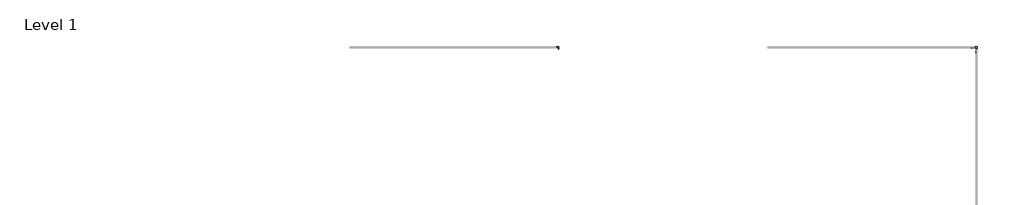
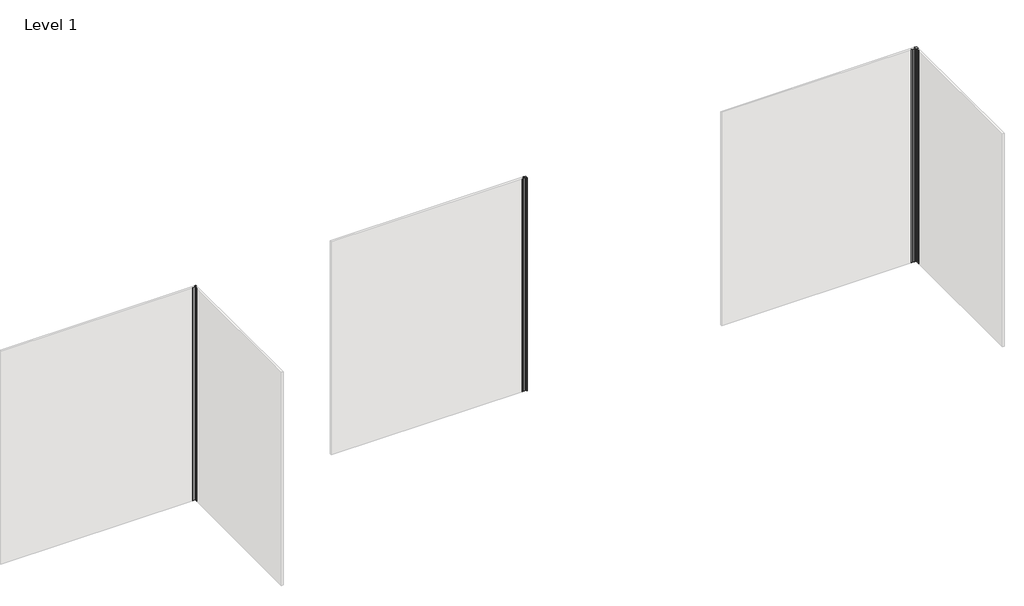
# One storey, part 2 of 2: 3 proxies.
"""IFC4 building model written with IfcOpenShell, lengths in millimetres."""

import ifcopenshell
import ifcopenshell.guid

model = None  # the IFC model being written
_history = None  # IfcOwnerHistory: only IFC2X3 demands one
_inside = {}  # id of a spatial element -> (the spatial element, [elements in it])
_under = {}  # id of a project, library or spatial element -> (it, [spatial elements below it])
_declared = {}  # id of a project -> (the project, [libraries it declares])
_typed = {}  # id of a type object -> (the type object, [elements of that type])
_made_of = {}  # id of a material, layer set ... -> (it, [elements and type objects made of it])


def new_model(schema):
    """Start an empty IFC model of exactly this schema.

    Asked for "IFC4X3", IfcOpenShell would pick the latest addendum, in which some entities
    have other attributes; the version numbers below select the first issue.
    IFC2X3 requires an IfcOwnerHistory on every rooted entity: one is made here for all.
    """
    global model, _history
    if schema == "IFC4X3":
        model = ifcopenshell.file(schema_version=(4, 3, 0, 0))
    else:
        model = ifcopenshell.file(schema=schema)
    _inside.clear()
    _under.clear()
    _declared.clear()
    _typed.clear()
    _made_of.clear()
    _history = None
    if model.schema == "IFC2X3":
        org = make("IfcOrganization", Name="unknown")
        user = make(
            "IfcPersonAndOrganization",
            ThePerson=make("IfcPerson", FamilyName="unknown"),
            TheOrganization=org,
        )
        app = make(
            "IfcApplication",
            ApplicationDeveloper=org,
            Version="unknown",
            ApplicationFullName="unknown",
            ApplicationIdentifier="unknown",
        )
        _history = make(
            "IfcOwnerHistory",
            OwningUser=user,
            OwningApplication=app,
            ChangeAction="ADDED",
            CreationDate=0,
        )
    return model


def make(cls, **values):
    """One entity of the class cls with the attributes given. An attribute that is None is left unset."""
    return model.create_entity(
        cls, **{name: value for name, value in values.items() if value is not None}
    )


def rooted(cls, **values):
    """An entity with a GlobalId (a new one), such as an element, a storey or a relation."""
    return make(cls, GlobalId=ifcopenshell.guid.new(), OwnerHistory=_history, **values)


def si_unit(unit_type, name, prefix=None):
    """IfcSIUnit, for example si_unit("LENGTHUNIT", "METRE", prefix="MILLI")."""
    return make("IfcSIUnit", UnitType=unit_type, Prefix=prefix, Name=name)


def assignment(units):
    """IfcUnitAssignment: the units of a project."""
    return None if units is None else make("IfcUnitAssignment", Units=units)


def point(xyz):
    """IfcCartesianPoint."""
    return None if xyz is None else make("IfcCartesianPoint", Coordinates=xyz)


def direction(xyz):
    """IfcDirection."""
    return None if xyz is None else make("IfcDirection", DirectionRatios=xyz)


def frame(location, z_axis=None, x_axis=None):
    """IfcAxis2Placement3D, a coordinate frame: its origin and axes. An axis left out is left unset."""
    return make(
        "IfcAxis2Placement3D",
        Location=point(location),
        Axis=direction(z_axis),
        RefDirection=direction(x_axis),
    )


def frame_2d(location, x_axis=None):
    """IfcAxis2Placement2D, a coordinate frame in the plane: its origin and x axis."""
    return make(
        "IfcAxis2Placement2D", Location=point(location), RefDirection=direction(x_axis)
    )


def origin():
    """The frame at (0, 0, 0) with its axes left unset."""
    return frame((0.0, 0.0, 0.0))


def place(relative_to, where):
    """IfcLocalPlacement: puts the frame where relative to a parent placement (None: the world)."""
    return make(
        "IfcLocalPlacement", PlacementRelTo=relative_to, RelativePlacement=where
    )


def context(
    kind, dimensions, precision=None, world=None, true_north=None, identifier=None
):
    """IfcGeometricRepresentationContext, for example the 3D "Model" context."""
    return make(
        "IfcGeometricRepresentationContext",
        ContextIdentifier=identifier,
        ContextType=kind,
        CoordinateSpaceDimension=dimensions,
        Precision=precision,
        WorldCoordinateSystem=world,
        TrueNorth=true_north,
    )


def project(units=None, contexts=None):
    """IfcProject with its units and contexts."""
    return rooted(
        "IfcProject",
        Name="project",
        RepresentationContexts=contexts,
        UnitsInContext=assignment(units),
    )


def spatial(cls, under=None, at=None, **own):
    """A site, building, storey or space (cls), placed at a placement, below another one or the project."""
    s = rooted(cls, ObjectPlacement=at, **own)
    if under is not None:
        _under.setdefault(under.id(), (under, []))[1].append(s)
    return s


def polyline(points):
    """IfcPolyline through the points."""
    return make("IfcPolyline", Points=[point(p) for p in points])


def circle_curve(where, radius):
    """IfcCircle in the frame where."""
    return make("IfcCircle", Position=where, Radius=radius)


def trimmed(basis, trim1, trim2, sense, master):
    """IfcTrimmedCurve: the piece of a basis curve between two trims."""
    return make(
        "IfcTrimmedCurve",
        BasisCurve=basis,
        Trim1=trim1,
        Trim2=trim2,
        SenseAgreement=sense,
        MasterRepresentation=master,
    )


def segment(curve, same_sense, transition):
    """IfcCompositeCurveSegment."""
    return make(
        "IfcCompositeCurveSegment",
        Transition=transition,
        SameSense=same_sense,
        ParentCurve=curve,
    )


def composite_curve(segments, self_intersect=None):
    """IfcCompositeCurve: segments joined end to end."""
    return make("IfcCompositeCurve", Segments=segments, SelfIntersect=self_intersect)


def outline(outer, holes=None, kind="AREA"):
    """IfcArbitraryClosedProfileDef: a profile drawn as a closed curve; with holes, ...WithVoids."""
    if holes is None:
        return make("IfcArbitraryClosedProfileDef", ProfileType=kind, OuterCurve=outer)
    return make(
        "IfcArbitraryProfileDefWithVoids",
        ProfileType=kind,
        OuterCurve=outer,
        InnerCurves=holes,
    )


def extrude(swept, where, along, depth):
    """IfcExtrudedAreaSolid: the profile swept, set in the frame where, extruded along a direction by depth."""
    return make(
        "IfcExtrudedAreaSolid",
        SweptArea=swept,
        Position=where,
        ExtrudedDirection=direction(along),
        Depth=depth,
    )


def shape(context_of_items, identifier, shape_type, items):
    """IfcShapeRepresentation: the items that make up one representation, for example the "Body"."""
    return make(
        "IfcShapeRepresentation",
        ContextOfItems=context_of_items,
        RepresentationIdentifier=identifier,
        RepresentationType=shape_type,
        Items=items,
    )


def made_of(thing, what):
    """Note that an element or type object is made of a material, layer set ...; save() writes the relation."""
    if what is not None:
        _made_of.setdefault(what.id(), (what, []))[1].append(thing)
    return thing


def element(
    cls,
    number,
    at=None,
    inside=None,
    cuts=None,
    type_object=None,
    material=None,
    context=None,
    identifier="Body",
    shape_type=None,
    held_by="IfcProductDefinitionShape",
    body=None,
    shapes=None,
    **own,
):
    """One element of the class cls, such as IfcWall. Its Tag is "e" and its number.

    at: its placement. inside: the storey or other place that contains it. cuts: it is an
    opening in that element (IfcRelVoidsElement). A single representation is given by context,
    identifier, shape_type and body (its items); several are given by shapes. held_by: the class
    of the entity that holds the representations. save() writes the other relations.
    """
    e = rooted(cls, Tag="e%d" % number, ObjectPlacement=at, **own)
    if body is not None:
        shapes = [shape(context, identifier, shape_type, body)]
    if shapes is not None:
        e.Representation = make(held_by, Representations=shapes)
    if inside is not None:
        _inside.setdefault(inside.id(), (inside, []))[1].append(e)
    if cuts is not None:
        rooted(
            "IfcRelVoidsElement", RelatingBuildingElement=cuts, RelatedOpeningElement=e
        )
    if type_object is not None:
        _typed.setdefault(type_object.id(), (type_object, []))[1].append(e)
    return made_of(e, material)


def aggregate(whole, parts):
    """IfcRelAggregates: a whole, such as a stair, and the parts it consists of."""
    return rooted("IfcRelAggregates", RelatingObject=whole, RelatedObjects=parts)


def save(model, path):
    """Write the relations noted so far, then the file.

    IfcRelAggregates (storeys below a building ...), IfcRelContainedInSpatialStructure (elements
    in a storey), IfcRelDefinesByType, IfcRelAssociatesMaterial and IfcRelDeclares: one each for
    every whole, place, type object, material and project.
    """
    for whole, parts in _under.values():
        aggregate(whole, parts)
    for where, things in _inside.values():
        rooted(
            "IfcRelContainedInSpatialStructure",
            RelatedElements=things,
            RelatingStructure=where,
        )
    for kind, things in _typed.values():
        rooted("IfcRelDefinesByType", RelatedObjects=things, RelatingType=kind)
    for what, things in _made_of.values():
        rooted("IfcRelAssociatesMaterial", RelatedObjects=things, RelatingMaterial=what)
    for by, libraries in _declared.values():
        rooted("IfcRelDeclares", RelatingContext=by, RelatedDefinitions=libraries)
    model.write(path)


def plane_surface(at):
    """IfcPlane: the flat surface through the origin of the frame at, square to its z axis."""
    return make("IfcPlane", Position=at)


def cylinder_surface(at, radius):
    """IfcCylindricalSurface: all points at the distance radius from the z axis of the frame at."""
    return make("IfcCylindricalSurface", Position=at, Radius=radius)


def revolved_surface(curve, axis_point, axis_direction):
    """IfcSurfaceOfRevolution: the curve turned about the line through axis_point along axis_direction."""
    return make(
        "IfcSurfaceOfRevolution",
        SweptCurve=make("IfcArbitraryOpenProfileDef", ProfileType="CURVE", Curve=curve),
        AxisPosition=make("IfcAxis1Placement", Location=point(axis_point), Axis=direction(axis_direction)),
    )


def advanced_brep(points, edges, surfaces, faces):
    """IfcAdvancedBrep: a solid bounded by faces that lie on surfaces and meet in shared edges.

    An edge is (start, end): straight between two places in points (the first is 0);
    or (start, end, curve); or (start, end, curve, False) where it runs against its curve.
    A face is (place in surfaces, loops), or (place, loops, False) where it looks against
    its surface's normal. A loop lists edges by number (the first is 1), with a minus sign
    where the edge is run from its end to its start. The first loop is the outer one.
    """
    corners = [point(p) for p in points]
    vertices = [make("IfcVertexPoint", VertexGeometry=c) for c in corners]
    made = []
    for start, end, *more in edges:
        made.append(
            make(
                "IfcEdgeCurve",
                EdgeStart=vertices[start],
                EdgeEnd=vertices[end],
                EdgeGeometry=more[0] if more else make("IfcPolyline", Points=[corners[start], corners[end]]),
                SameSense=more[1] if len(more) > 1 else True,
            )
        )
    hull = []
    for where, loops, *sense in faces:
        bounds = []
        for j, loop in enumerate(loops):
            ring = [make("IfcOrientedEdge", EdgeElement=made[abs(k) - 1], Orientation=k > 0) for k in loop]
            bounds.append(
                make(
                    "IfcFaceOuterBound" if j == 0 else "IfcFaceBound",
                    Bound=make("IfcEdgeLoop", EdgeList=ring),
                    Orientation=True,
                )
            )
        hull.append(make("IfcAdvancedFace", Bounds=bounds, FaceSurface=surfaces[where], SameSense=sense[0] if sense else True))
    return make("IfcAdvancedBrep", Outer=make("IfcClosedShell", CfsFaces=hull))


model = new_model("IFC4")

# Units and contexts
model_context = context("Model", 3, world=origin())
ifc_project = project(units=[si_unit("LENGTHUNIT", "METRE", prefix="MILLI")], contexts=[model_context])

# Site, building, storey
site = spatial("IfcSite", under=ifc_project)
building = spatial("IfcBuilding", under=site)
storey = spatial("IfcBuildingStorey", under=building, Name="Level 1", Elevation=0.0)

# Proxies
placement = place(None, origin())
element("IfcBuildingElementProxy", 1, Name="Norweigian Board Corner Trim UH51 - Roman Antique", ObjectType="Norweigian Board Corner Trim UH51 - Roman Antique", at=placement, inside=storey, context=model_context, shape_type="AdvancedBrep", body=[
    advanced_brep(
    [(34036.9159815, -3707.3675219, 304.8), (34036.9159815, -3655.260545, 304.8), (34036.006349, -3654.3509125, 304.8), (33983.899372, -3654.3509125, 304.8), (33982.9159815, -3653.4644429, 304.8), (33982.9159815, -3647.2373822, 304.8), (33983.899372, -3646.3509125, 304.8), (33997.6428235, -3646.3509125, 304.8), (33998.9159815, -3647.719794, 304.8), (34006.9159815, -3647.719794, 304.8), (34008.1891394, -3646.3509125, 304.8), (34038.8028299, -3646.3509125, 304.8), (34045.1859961, -3639.9677463, 304.8), (34045.1859961, -3622.0808979, 304.8), (34047.1859961, -3620.0808979, 304.8), (34071.1859961, -3620.0808979, 304.8), (34071.1859961, -3644.0808979, 304.8), (34069.1859961, -3646.0808979, 304.8), (34051.2991477, -3646.0808979, 304.8), (34044.9159815, -3652.4640641, 304.8), (34044.9159815, -3653.4183979, 304.8), (34044.9159815, -3683.0777546, 304.8), (34043.5470999, -3684.3509125, 304.8), (34043.5470999, -3692.3509125, 304.8), (34044.9159815, -3693.6240705, 304.8), (34044.9159815, -3707.3675219, 304.8), (34044.0295118, -3708.3509125, 304.8), (34037.8024511, -3708.3509125, 304.8), (34036.9159815, -3707.3675219, 4876.8), (34037.8024511, -3708.3509125, 4876.8), (34044.0295118, -3708.3509125, 4876.8), (34044.9159815, -3707.3675219, 4876.8), (34044.9159815, -3693.6240705, 4876.8), (34043.5470999, -3692.3509125, 4876.8), (34043.5470999, -3684.3509125, 4876.8), (34044.9159815, -3683.0777546, 4876.8), (34044.9159815, -3653.4183979, 4876.8), (34044.9159815, -3652.4640641, 4876.8), (34051.2991477, -3646.0808979, 4876.8), (34069.1859961, -3646.0808979, 4876.8), (34071.1859961, -3644.0808979, 4876.8), (34071.1859961, -3620.0808979, 4876.8), (34047.1859961, -3620.0808979, 4876.8), (34045.1859961, -3622.0808979, 4876.8), (34045.1859961, -3639.9677463, 4876.8), (34038.8028299, -3646.3509125, 4876.8), (34008.1891394, -3646.3509125, 4876.8), (34006.9159815, -3647.719794, 4876.8), (33998.9159815, -3647.719794, 4876.8), (33997.6428235, -3646.3509125, 4876.8), (33983.899372, -3646.3509125, 4876.8), (33982.9159815, -3647.2373822, 4876.8), (33982.9159815, -3653.4644429, 4876.8), (33983.899372, -3654.3509125, 4876.8), (34036.006349, -3654.3509125, 4876.8), (34036.9159815, -3655.260545, 4876.8)],
    [
        (0, 1),
        (1, 2, circle_curve(frame((34035.9197391, -3655.3471548, 304.8), z_axis=(0.0, 0.0, 1.0), x_axis=(-0.7071067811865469, 0.7071067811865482, 0.0)), 1.0)),
        (2, 3),
        (3, 4, circle_curve(frame((33983.9095219, -3653.3509641, 304.8), z_axis=(0.0, 0.0, -1.0), x_axis=(0.7322454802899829, 0.6810407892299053, 0.0)), 1.0)),
        (4, 5),
        (5, 6, circle_curve(frame((33983.9095219, -3647.350861, 304.8), z_axis=(0.0, 0.0, -1.0), x_axis=(0.7322454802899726, -0.6810407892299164, 0.0)), 1.0)),
        (6, 7),
        (7, 8),
        (8, 9),
        (9, 10),
        (10, 11),
        (11, 12, circle_curve(frame((34038.6870278, -3639.8519442, 304.8), z_axis=(0.0, 0.0, 1.0), x_axis=(0.7071067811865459, -0.7071067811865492, 0.0)), 6.5)),
        (12, 13),
        (13, 14, circle_curve(frame((34047.1859961, -3622.0808979, 304.8), z_axis=(0.0, 0.0, -1.0), x_axis=(-1.0, 0.0, 0.0)), 2.0)),
        (14, 15),
        (15, 16),
        (16, 17, circle_curve(frame((34069.1859961, -3644.0808979, 304.8), z_axis=(0.0, 0.0, -1.0), x_axis=(-1.0, 0.0, 0.0)), 2.0)),
        (17, 18),
        (18, 19, circle_curve(frame((34051.4149498, -3652.5798662, 304.8), z_axis=(0.0, 0.0, 1.0), x_axis=(-0.7071067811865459, 0.7071067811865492, 0.0)), 6.5)),
        (19, 20),
        (20, 21),
        (21, 22),
        (22, 23),
        (23, 24),
        (24, 25),
        (25, 26, circle_curve(frame((34043.916033, -3707.3573721, 304.8), z_axis=(0.0, 0.0, -1.0), x_axis=(-0.6810407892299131, 0.7322454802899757, 0.0)), 1.0)),
        (26, 27),
        (27, 0, circle_curve(frame((34037.9159299, -3707.3573721, 304.8), z_axis=(0.0, 0.0, -1.0), x_axis=(0.6810407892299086, 0.7322454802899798, 0.0)), 1.0)),
        (28, 29, circle_curve(frame((34037.9159299, -3707.3573721, 4876.8), z_axis=(0.0, 0.0, 1.0), x_axis=(0.6810407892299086, 0.7322454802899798, 0.0)), 1.0)),
        (29, 30),
        (30, 31, circle_curve(frame((34043.916033, -3707.3573721, 4876.8), z_axis=(0.0, 0.0, 1.0), x_axis=(-0.6810407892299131, 0.7322454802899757, 0.0)), 1.0)),
        (31, 32),
        (32, 33),
        (33, 34),
        (34, 35),
        (35, 36),
        (36, 37),
        (37, 38, circle_curve(frame((34051.4149498, -3652.5798662, 4876.8), z_axis=(0.0, 0.0, -1.0), x_axis=(-0.7071067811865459, 0.7071067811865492, 0.0)), 6.5)),
        (38, 39),
        (39, 40, circle_curve(frame((34069.1859961, -3644.0808979, 4876.8), z_axis=(0.0, 0.0, 1.0), x_axis=(-1.0, 0.0, 0.0)), 2.0)),
        (40, 41),
        (41, 42),
        (42, 43, circle_curve(frame((34047.1859961, -3622.0808979, 4876.8), z_axis=(0.0, 0.0, 1.0), x_axis=(-1.0, 0.0, 0.0)), 2.0)),
        (43, 44),
        (44, 45, circle_curve(frame((34038.6870278, -3639.8519442, 4876.8), z_axis=(0.0, 0.0, -1.0), x_axis=(0.7071067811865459, -0.7071067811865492, 0.0)), 6.5)),
        (45, 46),
        (46, 47),
        (47, 48),
        (48, 49),
        (49, 50),
        (50, 51, circle_curve(frame((33983.9095219, -3647.350861, 4876.8), z_axis=(0.0, 0.0, 1.0), x_axis=(0.7322454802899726, -0.6810407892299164, 0.0)), 1.0)),
        (51, 52),
        (52, 53, circle_curve(frame((33983.9095219, -3653.3509641, 4876.8), z_axis=(0.0, 0.0, 1.0), x_axis=(0.7322454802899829, 0.6810407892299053, 0.0)), 1.0)),
        (53, 54),
        (54, 55, circle_curve(frame((34035.9197391, -3655.3471548, 4876.8), z_axis=(0.0, 0.0, -1.0), x_axis=(-0.7071067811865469, 0.7071067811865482, 0.0)), 1.0)),
        (55, 28),
        (0, 28),
        (55, 1),
        (54, 2),
        (53, 3),
        (52, 4),
        (51, 5),
        (50, 6),
        (49, 7),
        (48, 8),
        (47, 9),
        (46, 10),
        (45, 11),
        (44, 12),
        (43, 13),
        (42, 14),
        (41, 15),
        (40, 16),
        (39, 17),
        (38, 18),
        (37, 19),
        (35, 21),
        (34, 22),
        (33, 23),
        (32, 24),
        (31, 25),
        (30, 26),
        (29, 27),
    ],
    [
        plane_surface(frame((34071.1859961, -3714.4528035, 304.8), z_axis=(0.0, 0.0, -1.0), x_axis=(1.0, 0.0, 0.0))),
        plane_surface(frame((34071.1859961, -3714.4528035, 4876.8), z_axis=(0.0, 0.0, 1.0), x_axis=(1.0, 0.0, 0.0))),
        plane_surface(frame((34036.9159815, -3707.3675219, 304.8), z_axis=(-1.0, 0.0, 0.0), x_axis=(0.0, 0.0, 1.0))),
        revolved_surface(polyline([(34035.21263231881, -3654.6400480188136, 4876.8), (34035.21263231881, -3654.6400480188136, 304.8)]), (34035.9197391, -3655.3471548, 304.8), (0.0, 0.0, 1.0)),
        plane_surface(frame((34036.006349, -3654.3509125, 304.8), z_axis=(0.0, -1.0, 0.0), x_axis=(0.0, 0.0, 1.0))),
        cylinder_surface(frame((33983.9095219, -3653.3509641, 304.8), z_axis=(0.0, 0.0, -1.0000000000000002), x_axis=(0.7322454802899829, 0.6810407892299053, 0.0)), 1.0),
        plane_surface(frame((33982.9159815, -3653.4644429, 304.8), z_axis=(-1.0, 0.0, 0.0), x_axis=(0.0, 0.0, 1.0))),
        cylinder_surface(frame((33983.9095219, -3647.350861, 304.8), z_axis=(0.0, 0.0, -1.0), x_axis=(0.7322454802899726, -0.6810407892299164, 0.0)), 1.0),
        plane_surface(frame((33983.899372, -3646.3509125, 304.8), z_axis=(0.0, 1.0, 0.0), x_axis=(0.0, 0.0, 1.0))),
        plane_surface(frame((33997.6428235, -3646.3509125, 304.8), z_axis=(0.7322454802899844, 0.6810407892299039, 0.0), x_axis=(0.0, 0.0, 1.0))),
        plane_surface(frame((33998.9159815, -3647.719794, 304.8), z_axis=(0.0, 1.0, 0.0), x_axis=(0.0, 0.0, 1.0))),
        plane_surface(frame((34006.9159815, -3647.719794, 304.8), z_axis=(-0.732245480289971, 0.6810407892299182, 0.0), x_axis=(0.0, 0.0, 1.0))),
        plane_surface(frame((34008.1891394, -3646.3509125, 304.8), z_axis=(0.0, 1.0, 0.0), x_axis=(0.0, 0.0, 1.0))),
        revolved_surface(polyline([(34043.28322187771, -3644.4481382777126, 4876.800000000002), (34043.28322187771, -3644.4481382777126, 304.8)]), (34038.6870278, -3639.8519442, 304.8), (0.0, 0.0, 1.0000000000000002)),
        plane_surface(frame((34045.1859961, -3639.9677463, 304.8), z_axis=(-1.0, 0.0, 0.0), x_axis=(0.0, 0.0, 1.0))),
        cylinder_surface(frame((34047.1859961, -3622.0808979, 304.8), z_axis=(0.0, 0.0, -1.0), x_axis=(-1.0, 0.0, 0.0)), 2.0),
        plane_surface(frame((34047.1859961, -3620.0808979, 304.8), z_axis=(0.0, 1.0, 0.0), x_axis=(0.0, 0.0, 1.0))),
        plane_surface(frame((34071.1859961, -3620.0808979, 304.8), z_axis=(1.0, 0.0, 0.0), x_axis=(0.0, 0.0, 1.0))),
        cylinder_surface(frame((34069.1859961, -3644.0808979, 304.8), z_axis=(0.0, 0.0, -1.0), x_axis=(-1.0, 0.0, 0.0)), 2.0),
        plane_surface(frame((34069.1859961, -3646.0808979, 304.8), z_axis=(0.0, -1.0, 0.0), x_axis=(0.0, 0.0, 1.0))),
        revolved_surface(polyline([(34046.818755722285, -3647.9836721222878, 4876.800000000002), (34046.818755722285, -3647.9836721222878, 304.8)]), (34051.4149498, -3652.5798662, 304.8), (0.0, 0.0, 1.0000000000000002)),
        plane_surface(frame((34044.9159815, -3652.4640641, 304.8), z_axis=(1.0, 0.0, 0.0), x_axis=(0.0, 0.0, 1.0))),
        plane_surface(frame((34044.9159815, -3683.0777546, 304.8), z_axis=(0.6810407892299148, -0.7322454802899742, 0.0), x_axis=(0.0, 0.0, 1.0))),
        plane_surface(frame((34043.5470999, -3684.3509125, 304.8), z_axis=(1.0, 0.0, 0.0), x_axis=(0.0, 0.0, 1.0))),
        plane_surface(frame((34043.5470999, -3692.3509125, 304.8), z_axis=(0.6810407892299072, 0.7322454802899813, 0.0), x_axis=(0.0, 0.0, 1.0))),
        plane_surface(frame((34044.9159815, -3693.6240705, 304.8), z_axis=(1.0, 0.0, 0.0), x_axis=(0.0, 0.0, 1.0))),
        cylinder_surface(frame((34043.916033, -3707.3573721, 304.8), z_axis=(0.0, 0.0, -1.0), x_axis=(-0.6810407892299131, 0.7322454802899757, 0.0)), 1.0),
        plane_surface(frame((34044.0295118, -3708.3509125, 304.8), z_axis=(0.0, -1.0, 0.0), x_axis=(0.0, 0.0, 1.0))),
        cylinder_surface(frame((34037.9159299, -3707.3573721, 304.8), z_axis=(0.0, 0.0, -1.0), x_axis=(0.6810407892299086, 0.7322454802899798, 0.0)), 1.0),
    ],
    [
        (0, [[1, 2, 3, 4, 5, 6, 7, 8, 9, 10, 11, 12, 13, 14, 15, 16, 17, 18, 19, 20, 21, 22, 23, 24, 25, 26, 27, 28]]),
        (1, [[29, 30, 31, 32, 33, 34, 35, 36, 37, 38, 39, 40, 41, 42, 43, 44, 45, 46, 47, 48, 49, 50, 51, 52, 53, 54, 55, 56]]),
        (2, [[-1, 57, -56, 58]]),
        (3, [[-2, -58, -55, 59]]),
        (4, [[-3, -59, -54, 60]]),
        (5, [[-4, -60, -53, 61]]),
        (6, [[-5, -61, -52, 62]]),
        (7, [[-6, -62, -51, 63]]),
        (8, [[-7, -63, -50, 64]]),
        (9, [[-8, -64, -49, 65]]),
        (10, [[-9, -65, -48, 66]]),
        (11, [[-10, -66, -47, 67]]),
        (12, [[-11, -67, -46, 68]]),
        (13, [[-12, -68, -45, 69]]),
        (14, [[-13, -69, -44, 70]]),
        (15, [[-14, -70, -43, 71]]),
        (16, [[-15, -71, -42, 72]]),
        (17, [[-16, -72, -41, 73]]),
        (18, [[-17, -73, -40, 74]]),
        (19, [[-18, -74, -39, 75]]),
        (20, [[-19, -75, -38, 76]]),
        (21, [[-21, -20, -76, -37, -36, 77]]),
        (22, [[-22, -77, -35, 78]]),
        (23, [[-23, -78, -34, 79]]),
        (24, [[-24, -79, -33, 80]]),
        (25, [[-25, -80, -32, 81]]),
        (26, [[-26, -81, -31, 82]]),
        (27, [[-27, -82, -30, 83]]),
        (28, [[-28, -83, -29, -57]]),
    ],
),
])
element("IfcBuildingElementProxy", 2, Name="Belgium Board End Trim UH59 - Peruvian Teak", ObjectType="Belgium Board End Trim UH59 - Peruvian Teak", at=placement, inside=storey, context=model_context, shape_type="SweptSolid", body=[
    extrude(outline(composite_curve([segment(polyline([(40760.1172461, -3620.0808979), (40760.1172461, -3676.0808979), (40752.1317629, -3676.0808979), (40752.1317629, -3656.0808979), (40671.8951823, -3656.0808979)]), True, "CONTINUOUS"), segment(trimmed(circle_curve(frame_2d((40671.8951823, -3654.1029617)), 1.9779361), [point((40671.8951823, -3656.0808979))], [point((40669.9172461, -3654.1029617))], False, "CARTESIAN"), True, "CONTINUOUS"), segment(polyline([(40669.9172461, -3654.1029617), (40669.9172461, -3650.0144073)]), True, "CONTINUOUS"), segment(trimmed(circle_curve(frame_2d((40671.8951823, -3650.0144073)), 1.9779361), [point((40669.9172461, -3650.0144073))], [point((40671.8951823, -3648.0364711))], False, "CARTESIAN"), True, "CONTINUOUS"), segment(polyline([(40671.8951823, -3648.0364711), (40690.4172461, -3648.0364711), (40691.6904041, -3649.4053526), (40699.6904041, -3649.4053526), (40700.963562, -3648.0364711), (40703.8801098, -3648.0364711), (40705.2489913, -3649.4053526), (40733.1221609, -3649.4053526)]), True, "CONTINUOUS"), segment(trimmed(circle_curve(frame_2d((40733.1221609, -3647.4053526)), 2.0), [point((40733.1221609, -3649.4053526))], [point((40735.1221609, -3647.4053526))], True, "CARTESIAN"), True, "CONTINUOUS"), segment(polyline([(40735.1221609, -3647.4053526), (40735.1221609, -3641.1103492)]), True, "CONTINUOUS"), segment(trimmed(circle_curve(frame_2d((40734.1221609, -3641.1103492)), 1.0), [point((40735.1221609, -3641.1103492))], [point((40734.1221609, -3640.1103492))], True, "CARTESIAN"), True, "CONTINUOUS"), segment(polyline([(40734.1221609, -3640.1103492), (40717.2731378, -3640.1103492)]), True, "CONTINUOUS"), segment(trimmed(circle_curve(frame_2d((40717.2731378, -3638.0757427)), 2.0346065), [point((40717.2731378, -3640.1103492))], [point((40716.2171888, -3639.8148791))], False, "CARTESIAN"), True, "CONTINUOUS"), segment(polyline([(40716.2171888, -3639.8148791), (40710.6637514, -3636.4430063)]), True, "CONTINUOUS"), segment(trimmed(circle_curve(frame_2d((40711.6850088, -3634.7610066)), 1.9677626), [point((40710.6637514, -3636.4430063))], [point((40709.7172461, -3634.7610066))], False, "CARTESIAN"), True, "CONTINUOUS"), segment(polyline([(40709.7172461, -3634.7610066), (40709.7172461, -3622.058834)]), True, "CONTINUOUS"), segment(trimmed(circle_curve(frame_2d((40711.6951823, -3622.058834)), 1.9779361), [point((40709.7172461, -3622.058834))], [point((40711.6951823, -3620.0808979))], False, "CARTESIAN"), True, "CONTINUOUS"), segment(polyline([(40711.6951823, -3620.0808979), (40760.1172461, -3620.0808979)]), True, "CONTINUOUS")], self_intersect=False)), frame((0.0, 0.0, 304.8), z_axis=(0.0, 0.0, 1.0), x_axis=(1.0, 0.0, 0.0)), (0.0, 0.0, 1.0), 4572.0),
])
element("IfcBuildingElementProxy", 3, Name="Belgium Board Corner Trim UH60 - Hawaiian Charoal", ObjectType="Belgium Board Corner Trim UH60 - Hawaiian Charoal", at=placement, inside=storey, context=model_context, shape_type="AdvancedBrep", body=[
    advanced_brep(
    [(48649.6086502, -3620.0808979, 304.8), (48701.5859961, -3620.0808979, 304.8), (48701.5859961, -3672.0582438, 304.8), (48699.563342, -3674.0808979, 304.8), (48674.2218648, -3674.0808979, 304.8), (48673.2218853, -3675.0744993, 304.8), (48673.2218853, -3699.0761272, 304.8), (48674.5907668, -3700.3492851, 304.8), (48674.5907668, -3714.8029693, 304.8), (48673.2218853, -3716.0761272, 304.8), (48673.2218853, -3724.0761272, 304.8), (48674.5907668, -3725.3492851, 304.8), (48674.5907668, -3749.0927366, 304.8), (48673.7042972, -3750.0761272, 304.8), (48668.2484961, -3750.0761272, 304.8), (48667.4772364, -3750.0761272, 304.8), (48666.5907668, -3749.0927366, 304.8), (48666.5907668, -3655.9857597, 304.8), (48665.6811343, -3655.0761272, 304.8), (48572.5741574, -3655.0761272, 304.8), (48571.5907668, -3654.1896576, 304.8), (48571.5907668, -3647.9625968, 304.8), (48572.5741574, -3647.0761272, 304.8), (48596.3176089, -3647.0761272, 304.8), (48597.5907668, -3648.4450087, 304.8), (48605.5907668, -3648.4450087, 304.8), (48606.8639247, -3647.0761272, 304.8), (48621.3176089, -3647.0761272, 304.8), (48622.5907668, -3648.4450087, 304.8), (48646.5795976, -3648.4450087, 304.8), (48647.5859961, -3647.4450292, 304.8), (48647.5859961, -3622.103552, 304.8), (48649.6086502, -3620.0808979, 4876.8), (48647.5859961, -3622.103552, 4876.8), (48647.5859961, -3647.4450292, 4876.8), (48646.5795976, -3648.4450087, 4876.8), (48622.5907668, -3648.4450087, 4876.8), (48621.3176089, -3647.0761272, 4876.8), (48606.8639247, -3647.0761272, 4876.8), (48605.5907668, -3648.4450087, 4876.8), (48597.5907668, -3648.4450087, 4876.8), (48596.3176089, -3647.0761272, 4876.8), (48572.5741574, -3647.0761272, 4876.8), (48571.5907668, -3647.9625968, 4876.8), (48571.5907668, -3654.1896576, 4876.8), (48572.5741574, -3655.0761272, 4876.8), (48665.6811343, -3655.0761272, 4876.8), (48666.5907668, -3655.9857597, 4876.8), (48666.5907668, -3749.0927366, 4876.8), (48667.4772364, -3750.0761272, 4876.8), (48668.2484961, -3750.0761272, 4876.8), (48673.7042972, -3750.0761272, 4876.8), (48674.5907668, -3749.0927366, 4876.8), (48674.5907668, -3725.3492851, 4876.8), (48673.2218853, -3724.0761272, 4876.8), (48673.2218853, -3716.0761272, 4876.8), (48674.5907668, -3714.8029693, 4876.8), (48674.5907668, -3700.3492851, 4876.8), (48673.2218853, -3699.0761272, 4876.8), (48673.2218853, -3675.0744993, 4876.8), (48674.2218648, -3674.0808979, 4876.8), (48699.563342, -3674.0808979, 4876.8), (48701.5859961, -3672.0582438, 4876.8), (48701.5859961, -3620.0808979, 4876.8)],
    [
        (0, 1),
        (1, 2),
        (2, 3, circle_curve(frame((48699.563342, -3672.0582438, 304.8), z_axis=(0.0, 0.0, -1.0), x_axis=(0.0, -1.0, 0.0)), 2.0226541)),
        (3, 4),
        (4, 5, circle_curve(frame((48674.2218648, -3675.0808979, 304.8), z_axis=(0.0, 0.0, 1.0), x_axis=(-0.7071067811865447, 0.7071067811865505, 0.0)), 1.0)),
        (5, 6),
        (6, 7),
        (7, 8),
        (8, 9),
        (9, 10),
        (10, 11),
        (11, 12),
        (12, 13, circle_curve(frame((48673.5908183, -3749.0825868, 304.8), z_axis=(0.0, 0.0, -1.0), x_axis=(-0.681040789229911, 0.7322454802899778, 0.0)), 1.0)),
        (13, 14),
        (14, 15),
        (15, 16, circle_curve(frame((48667.5907153, -3749.0825868, 304.8), z_axis=(0.0, 0.0, -1.0), x_axis=(0.6810407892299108, 0.7322454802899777, 0.0)), 1.0)),
        (16, 17),
        (17, 18, circle_curve(frame((48665.5945245, -3656.0723695, 304.8), z_axis=(0.0, 0.0, 1.0), x_axis=(-0.7071067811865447, 0.7071067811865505, 0.0)), 1.0)),
        (18, 19),
        (19, 20, circle_curve(frame((48572.5843072, -3654.0761787, 304.8), z_axis=(0.0, 0.0, -1.0), x_axis=(0.7322454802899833, 0.6810407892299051, 0.0)), 1.0)),
        (20, 21),
        (21, 22, circle_curve(frame((48572.5843072, -3648.0760757, 304.8), z_axis=(0.0, 0.0, -1.0), x_axis=(0.7322454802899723, -0.6810407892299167, 0.0)), 1.0)),
        (22, 23),
        (23, 24),
        (24, 25),
        (25, 26),
        (26, 27),
        (27, 28),
        (28, 29),
        (29, 30, circle_curve(frame((48646.5859961, -3647.4450292, 304.8), z_axis=(0.0, 0.0, 1.0), x_axis=(0.7071067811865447, -0.7071067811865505, 0.0)), 1.0)),
        (30, 31),
        (31, 0, circle_curve(frame((48649.6086502, -3622.103552, 304.8), z_axis=(0.0, 0.0, -1.0), x_axis=(-1.0, 0.0, 0.0)), 2.0226541)),
        (32, 33, circle_curve(frame((48649.6086502, -3622.103552, 4876.8), z_axis=(0.0, 0.0, 1.0), x_axis=(-1.0, 0.0, 0.0)), 2.0226541)),
        (33, 34),
        (34, 35, circle_curve(frame((48646.5859961, -3647.4450292, 4876.8), z_axis=(0.0, 0.0, -1.0), x_axis=(0.7071067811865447, -0.7071067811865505, 0.0)), 1.0)),
        (35, 36),
        (36, 37),
        (37, 38),
        (38, 39),
        (39, 40),
        (40, 41),
        (41, 42),
        (42, 43, circle_curve(frame((48572.5843072, -3648.0760757, 4876.8), z_axis=(0.0, 0.0, 1.0), x_axis=(0.7322454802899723, -0.6810407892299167, 0.0)), 1.0)),
        (43, 44),
        (44, 45, circle_curve(frame((48572.5843072, -3654.0761787, 4876.8), z_axis=(0.0, 0.0, 1.0), x_axis=(0.7322454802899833, 0.6810407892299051, 0.0)), 1.0)),
        (45, 46),
        (46, 47, circle_curve(frame((48665.5945245, -3656.0723695, 4876.8), z_axis=(0.0, 0.0, -1.0), x_axis=(-0.7071067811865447, 0.7071067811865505, 0.0)), 1.0)),
        (47, 48),
        (48, 49, circle_curve(frame((48667.5907153, -3749.0825868, 4876.8), z_axis=(0.0, 0.0, 1.0), x_axis=(0.6810407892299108, 0.7322454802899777, 0.0)), 1.0)),
        (49, 50),
        (50, 51),
        (51, 52, circle_curve(frame((48673.5908183, -3749.0825868, 4876.8), z_axis=(0.0, 0.0, 1.0), x_axis=(-0.681040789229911, 0.7322454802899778, 0.0)), 1.0)),
        (52, 53),
        (53, 54),
        (54, 55),
        (55, 56),
        (56, 57),
        (57, 58),
        (58, 59),
        (59, 60, circle_curve(frame((48674.2218648, -3675.0808979, 4876.8), z_axis=(0.0, 0.0, -1.0), x_axis=(-0.7071067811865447, 0.7071067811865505, 0.0)), 1.0)),
        (60, 61),
        (61, 62, circle_curve(frame((48699.563342, -3672.0582438, 4876.8), z_axis=(0.0, 0.0, 1.0), x_axis=(0.0, -1.0, 0.0)), 2.0226541)),
        (62, 63),
        (63, 32),
        (0, 32),
        (63, 1),
        (62, 2),
        (61, 3),
        (60, 4),
        (59, 5),
        (58, 6),
        (57, 7),
        (56, 8),
        (55, 9),
        (54, 10),
        (53, 11),
        (52, 12),
        (51, 13),
        (49, 15),
        (48, 16),
        (47, 17),
        (46, 18),
        (45, 19),
        (44, 20),
        (43, 21),
        (42, 22),
        (41, 23),
        (40, 24),
        (39, 25),
        (38, 26),
        (37, 27),
        (36, 28),
        (35, 29),
        (34, 30),
        (33, 31),
    ],
    [
        plane_surface(frame((48701.5859961, -3754.4764601, 304.8), z_axis=(0.0, 0.0, -1.0), x_axis=(1.0, 0.0, 0.0))),
        plane_surface(frame((48701.5859961, -3754.4764601, 4876.8), z_axis=(0.0, 0.0, 1.0), x_axis=(1.0, 0.0, 0.0))),
        plane_surface(frame((48649.6086502, -3620.0808979, 304.8), z_axis=(0.0, 1.0, 0.0), x_axis=(0.0, 0.0, 1.0))),
        plane_surface(frame((48701.5859961, -3620.0808979, 304.8), z_axis=(1.0, 0.0, 0.0), x_axis=(0.0, 0.0, 1.0))),
        cylinder_surface(frame((48699.563342, -3672.0582438, 304.8), z_axis=(0.0, 0.0, -1.0), x_axis=(0.0, -1.0, 0.0)), 2.0226541),
        plane_surface(frame((48699.563342, -3674.0808979, 304.8), z_axis=(0.0, -1.0, 0.0), x_axis=(0.0, 0.0, 1.0))),
        revolved_surface(polyline([(48673.51475801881, -3674.373791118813, 4876.8), (48673.51475801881, -3674.373791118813, 304.8)]), (48674.2218648, -3675.0808979, 304.8), (0.0, 0.0, 1.0)),
        plane_surface(frame((48673.2218853, -3675.0744993, 304.8), z_axis=(1.0, 0.0, 0.0), x_axis=(0.0, 0.0, 1.0))),
        plane_surface(frame((48673.2218853, -3699.0761272, 304.8), z_axis=(0.6810407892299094, 0.732245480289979, 0.0), x_axis=(0.0, 0.0, 1.0))),
        plane_surface(frame((48674.5907668, -3700.3492851, 304.8), z_axis=(1.0, 0.0, 0.0), x_axis=(0.0, 0.0, 1.0))),
        plane_surface(frame((48674.5907668, -3714.8029693, 304.8), z_axis=(0.6810407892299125, -0.7322454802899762, 0.0), x_axis=(0.0, 0.0, 1.0))),
        plane_surface(frame((48673.2218853, -3716.0761272, 304.8), z_axis=(1.0, 0.0, 0.0), x_axis=(0.0, 0.0, 1.0))),
        plane_surface(frame((48673.2218853, -3724.0761272, 304.8), z_axis=(0.6810407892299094, 0.732245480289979, 0.0), x_axis=(0.0, 0.0, 1.0))),
        plane_surface(frame((48674.5907668, -3725.3492851, 304.8), z_axis=(1.0, 0.0, 0.0), x_axis=(0.0, 0.0, 1.0))),
        cylinder_surface(frame((48673.5908183, -3749.0825868, 304.8), z_axis=(0.0, 0.0, -1.0000000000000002), x_axis=(-0.681040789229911, 0.7322454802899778, 0.0)), 1.0),
        plane_surface(frame((48673.7042972, -3750.0761272, 304.8), z_axis=(0.0, -1.0, 0.0), x_axis=(0.0, 0.0, 1.0))),
        cylinder_surface(frame((48667.5907153, -3749.0825868, 304.8), z_axis=(0.0, 0.0, -1.0), x_axis=(0.6810407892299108, 0.7322454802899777, 0.0)), 1.0),
        plane_surface(frame((48666.5907668, -3749.0927366, 304.8), z_axis=(-1.0, 0.0, 0.0), x_axis=(0.0, 0.0, 1.0))),
        revolved_surface(polyline([(48664.88741771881, -3655.3652627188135, 4876.8), (48664.88741771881, -3655.3652627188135, 304.8)]), (48665.5945245, -3656.0723695, 304.8), (0.0, 0.0, 1.0)),
        plane_surface(frame((48665.6811343, -3655.0761272, 304.8), z_axis=(0.0, -1.0, 0.0), x_axis=(0.0, 0.0, 1.0))),
        cylinder_surface(frame((48572.5843072, -3654.0761787, 304.8), z_axis=(0.0, 0.0, -1.0000000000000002), x_axis=(0.7322454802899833, 0.6810407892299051, 0.0)), 1.0),
        plane_surface(frame((48571.5907668, -3654.1896576, 304.8), z_axis=(-1.0, 0.0, 0.0), x_axis=(0.0, 0.0, 1.0))),
        cylinder_surface(frame((48572.5843072, -3648.0760757, 304.8), z_axis=(0.0, 0.0, -1.0), x_axis=(0.7322454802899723, -0.6810407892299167, 0.0)), 1.0),
        plane_surface(frame((48572.5741574, -3647.0761272, 304.8), z_axis=(0.0, 1.0, 0.0), x_axis=(0.0, 0.0, 1.0))),
        plane_surface(frame((48596.3176089, -3647.0761272, 304.8), z_axis=(0.7322454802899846, 0.6810407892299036, 0.0), x_axis=(0.0, 0.0, 1.0))),
        plane_surface(frame((48597.5907668, -3648.4450087, 304.8), z_axis=(0.0, 1.0, 0.0), x_axis=(0.0, 0.0, 1.0))),
        plane_surface(frame((48605.5907668, -3648.4450087, 304.8), z_axis=(-0.7322454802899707, 0.6810407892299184, 0.0), x_axis=(0.0, 0.0, 1.0))),
        plane_surface(frame((48606.8639247, -3647.0761272, 304.8), z_axis=(0.0, 1.0, 0.0), x_axis=(0.0, 0.0, 1.0))),
        plane_surface(frame((48621.3176089, -3647.0761272, 304.8), z_axis=(0.7322454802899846, 0.6810407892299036, 0.0), x_axis=(0.0, 0.0, 1.0))),
        plane_surface(frame((48622.5907668, -3648.4450087, 304.8), z_axis=(0.0, 1.0, 0.0), x_axis=(0.0, 0.0, 1.0))),
        revolved_surface(polyline([(48647.29310288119, -3648.152135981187, 4876.8), (48647.29310288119, -3648.152135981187, 304.8)]), (48646.5859961, -3647.4450292, 304.8), (0.0, 0.0, 1.0)),
        plane_surface(frame((48647.5859961, -3647.4450292, 304.8), z_axis=(-1.0, 0.0, 0.0), x_axis=(0.0, 0.0, 1.0))),
        cylinder_surface(frame((48649.6086502, -3622.103552, 304.8), z_axis=(0.0, 0.0, -1.0), x_axis=(-1.0, 0.0, 0.0)), 2.0226541),
    ],
    [
        (0, [[1, 2, 3, 4, 5, 6, 7, 8, 9, 10, 11, 12, 13, 14, 15, 16, 17, 18, 19, 20, 21, 22, 23, 24, 25, 26, 27, 28, 29, 30, 31, 32]]),
        (1, [[33, 34, 35, 36, 37, 38, 39, 40, 41, 42, 43, 44, 45, 46, 47, 48, 49, 50, 51, 52, 53, 54, 55, 56, 57, 58, 59, 60, 61, 62, 63, 64]]),
        (2, [[-1, 65, -64, 66]]),
        (3, [[-2, -66, -63, 67]]),
        (4, [[-3, -67, -62, 68]]),
        (5, [[-4, -68, -61, 69]]),
        (6, [[-5, -69, -60, 70]]),
        (7, [[-6, -70, -59, 71]]),
        (8, [[-7, -71, -58, 72]]),
        (9, [[-8, -72, -57, 73]]),
        (10, [[-9, -73, -56, 74]]),
        (11, [[-10, -74, -55, 75]]),
        (12, [[-11, -75, -54, 76]]),
        (13, [[-12, -76, -53, 77]]),
        (14, [[-13, -77, -52, 78]]),
        (15, [[-15, -14, -78, -51, -50, 79]]),
        (16, [[-16, -79, -49, 80]]),
        (17, [[-17, -80, -48, 81]]),
        (18, [[-18, -81, -47, 82]]),
        (19, [[-19, -82, -46, 83]]),
        (20, [[-20, -83, -45, 84]]),
        (21, [[-21, -84, -44, 85]]),
        (22, [[-22, -85, -43, 86]]),
        (23, [[-23, -86, -42, 87]]),
        (24, [[-24, -87, -41, 88]]),
        (25, [[-25, -88, -40, 89]]),
        (26, [[-26, -89, -39, 90]]),
        (27, [[-27, -90, -38, 91]]),
        (28, [[-28, -91, -37, 92]]),
        (29, [[-29, -92, -36, 93]]),
        (30, [[-30, -93, -35, 94]]),
        (31, [[-31, -94, -34, 95]]),
        (32, [[-32, -95, -33, -65]]),
    ],
),
])

save(model, "model.ifc")
